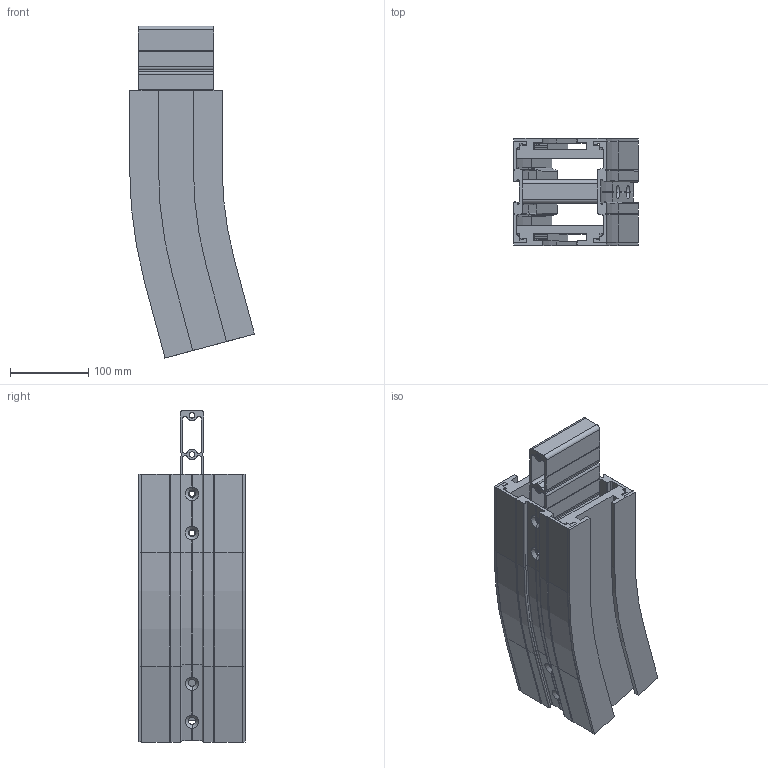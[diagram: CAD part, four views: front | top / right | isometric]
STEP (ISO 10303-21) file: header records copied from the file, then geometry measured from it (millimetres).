
FILE_DESCRIPTION (( 'STEP AP203' ), '1' );
FILE_NAME ('R3C500-15.STEP', '2009-01-13T08:23:56', ( 'faber' ), ( '' ), 'SwSTEP 2.0', 'SolidWorks 2008', '' );
FILE_SCHEMA (( 'CONFIG_CONTROL_DESIGN' ));
Length unit declared in the file: millimetre
Products named in the file (1): R3C500-15
Bounding box: 158.91 x 136 x 423.02 mm (x, y, z)
Surface area: 490739.7 mm2 (no closed solid volume)
Topology: 0 solids, 11 shells, 447 faces, 1563 edges, 1078 vertices
Faces by surface type: plane 225, cylinder 180, cone 24, torus 18
Entity records: 16830 total; most frequent: CARTESIAN_POINT 3185, DIRECTION 2937, ORIENTED_EDGE 2602, EDGE_CURVE 1563, VERTEX_POINT 1078, VECTOR 1021, LINE 1021, AXIS2_PLACEMENT_3D 958
